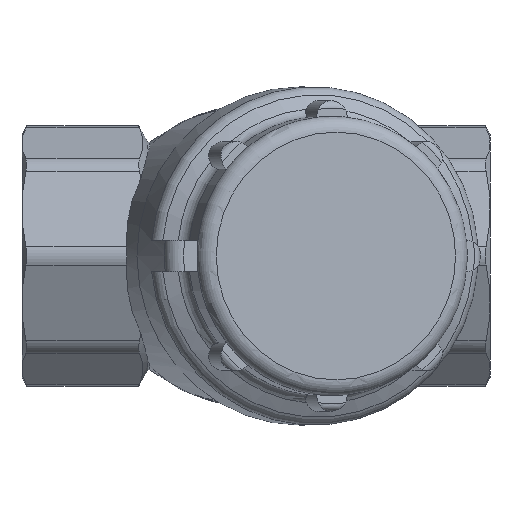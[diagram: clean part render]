
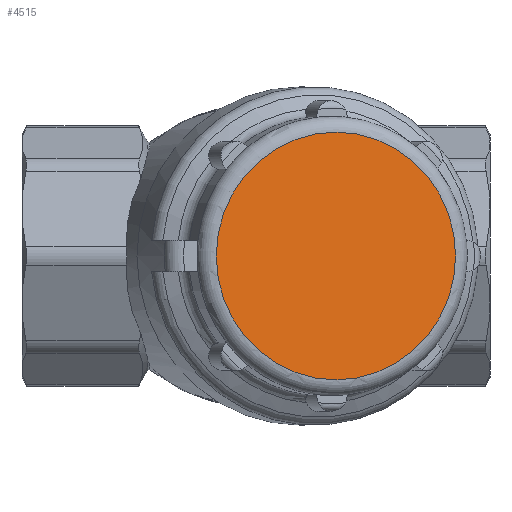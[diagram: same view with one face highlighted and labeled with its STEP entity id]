
A CAD part, front view. The second image highlights one B-rep face of the part: STEP entity #4515.
In plain terms, the highlighted planar face has unit normal (0.259, -0.966, 0).
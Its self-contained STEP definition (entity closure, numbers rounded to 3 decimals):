
#1079=FACE_OUTER_BOUND('',#1348,.T.);
#1348=EDGE_LOOP('',(#3749,#3750));
#1590=CIRCLE('',#4986,15.75);
#1591=CIRCLE('',#4987,15.75);
#1978=VERTEX_POINT('',#12087);
#1979=VERTEX_POINT('',#12088);
#2609=EDGE_CURVE('',#1978,#1979,#1590,.T.);
#2610=EDGE_CURVE('',#1979,#1978,#1591,.T.);
#3749=ORIENTED_EDGE('',*,*,#2609,.T.);
#3750=ORIENTED_EDGE('',*,*,#2610,.T.);
#4317=PLANE('',#4989);
#4515=ADVANCED_FACE('',(#1079),#4317,.T.);
#4986=AXIS2_PLACEMENT_3D('',#12089,#5998,#5999);
#4987=AXIS2_PLACEMENT_3D('',#12090,#6000,#6001);
#4989=AXIS2_PLACEMENT_3D('',#12092,#6004,#6005);
#5998=DIRECTION('center_axis',(0.259,-0.966,0.));
#5999=DIRECTION('ref_axis',(0.966,0.259,0.));
#6000=DIRECTION('center_axis',(0.259,-0.966,0.));
#6001=DIRECTION('ref_axis',(0.966,0.259,0.));
#6004=DIRECTION('center_axis',(0.259,-0.966,0.));
#6005=DIRECTION('ref_axis',(0.,0.,-1.));
#12087=CARTESIAN_POINT('',(26.58,-38.343,0.));
#12088=CARTESIAN_POINT('',(11.366,-42.42,15.75));
#12089=CARTESIAN_POINT('Origin',(11.366,-42.42,0.));
#12090=CARTESIAN_POINT('Origin',(11.366,-42.42,0.));
#12092=CARTESIAN_POINT('Origin',(11.366,-42.42,0.));
